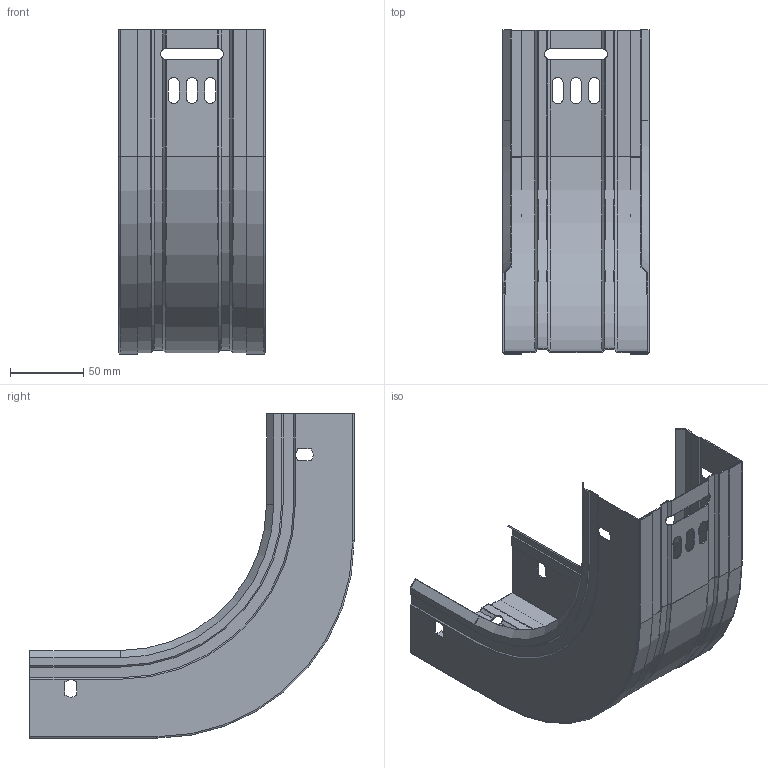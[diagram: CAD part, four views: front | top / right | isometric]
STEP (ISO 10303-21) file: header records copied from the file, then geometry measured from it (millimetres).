
FILE_DESCRIPTION (( 'STEP AP203' ), '1' );
FILE_NAME ('ERE_CONCAVA 100x60.step', '2023-07-27T18:53:31', ( '' ), ( '' ), 'SwSTEP 2.0', 'SolidWorks 2022', '' );
FILE_SCHEMA (( 'CONFIG_CONTROL_DESIGN' ));
Length unit declared in the file: millimetre
Products named in the file (3): ERE_BASE CC_100x60; ERE_CONCAVA 100x60; ERE_LATERAL CC_60
Assembly tree (3 placements, depth 2):
  ERE_CONCAVA 100x60
    ERE_BASE CC_100x60
    ERE_LATERAL CC_60  x2
Bounding box: 100 x 222 x 222 mm (x, y, z)
Volume: 72163.6 mm3; surface area: 182974.8 mm2
Topology: 3 solids, 3 shells, 220 faces, 588 edges, 366 vertices
Faces by surface type: plane 142, cylinder 52, cone 22, torus 4
Entity records: 5416 total; most frequent: CARTESIAN_POINT 932, ORIENTED_EDGE 880, DIRECTION 867, EDGE_CURVE 440, LINE 319, VECTOR 319, VERTEX_POINT 275, AXIS2_PLACEMENT_3D 274
